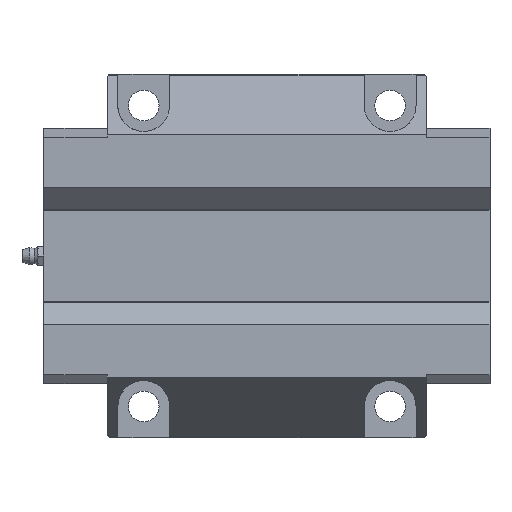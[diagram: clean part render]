
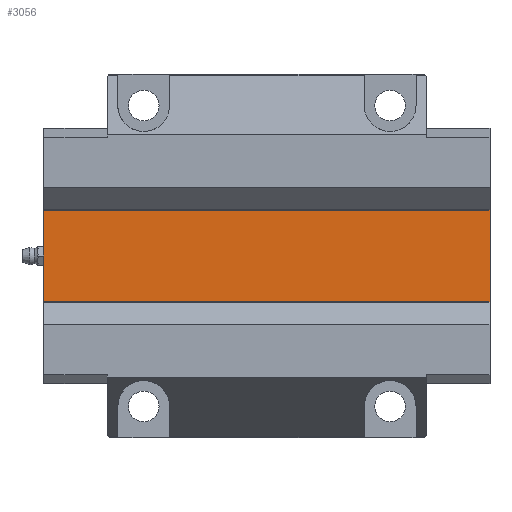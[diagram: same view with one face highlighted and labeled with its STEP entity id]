
A CAD part, front view. The second image highlights one B-rep face of the part: STEP entity #3056.
In plain terms, the highlighted planar face has unit normal (0, -1, 0).
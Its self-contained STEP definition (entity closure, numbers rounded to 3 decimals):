
#809=ORIENTED_EDGE('',*,*,#1214,.F.);
#810=ORIENTED_EDGE('',*,*,#1407,.F.);
#811=ORIENTED_EDGE('',*,*,#1157,.T.);
#812=ORIENTED_EDGE('',*,*,#1408,.T.);
#1157=EDGE_CURVE('',#1573,#1572,#1859,.T.);
#1214=EDGE_CURVE('',#1626,#1627,#1895,.T.);
#1407=EDGE_CURVE('',#1573,#1626,#2057,.T.);
#1408=EDGE_CURVE('',#1572,#1627,#2058,.T.);
#1572=VERTEX_POINT('',#4517);
#1573=VERTEX_POINT('',#4519);
#1626=VERTEX_POINT('',#4629);
#1627=VERTEX_POINT('',#4631);
#1859=LINE('',#4518,#2129);
#1895=LINE('',#4630,#2165);
#2057=LINE('',#5009,#2327);
#2058=LINE('',#5011,#2328);
#2129=VECTOR('',#3594,1000.);
#2165=VECTOR('',#3674,1000.);
#2327=VECTOR('',#4050,1000.);
#2328=VECTOR('',#4053,1000.);
#2461=EDGE_LOOP('',(#809,#810,#811,#812));
#2713=FACE_BOUND('',#2461,.T.);
#2925=PLANE('',#3336);
#3056=ADVANCED_FACE('',(#2713),#2925,.T.);
#3336=AXIS2_PLACEMENT_3D('',#5010,#4051,#4052);
#3594=DIRECTION('',(0.,0.,1.));
#3674=DIRECTION('',(0.,0.,1.));
#4050=DIRECTION('',(-1.,0.,0.));
#4051=DIRECTION('',(0.,-1.,0.));
#4052=DIRECTION('',(0.,0.,-1.));
#4053=DIRECTION('',(-1.,0.,0.));
#4517=CARTESIAN_POINT('',(86.,35.,25.47));
#4518=CARTESIAN_POINT('',(86.,35.,-25.47));
#4519=CARTESIAN_POINT('',(86.,35.,-25.47));
#4629=CARTESIAN_POINT('',(-86.,35.,-25.47));
#4630=CARTESIAN_POINT('',(-86.,35.,-25.47));
#4631=CARTESIAN_POINT('',(-86.,35.,25.47));
#5009=CARTESIAN_POINT('',(86.,35.,-25.47));
#5010=CARTESIAN_POINT('',(86.,35.,-25.47));
#5011=CARTESIAN_POINT('',(86.,35.,25.47));
